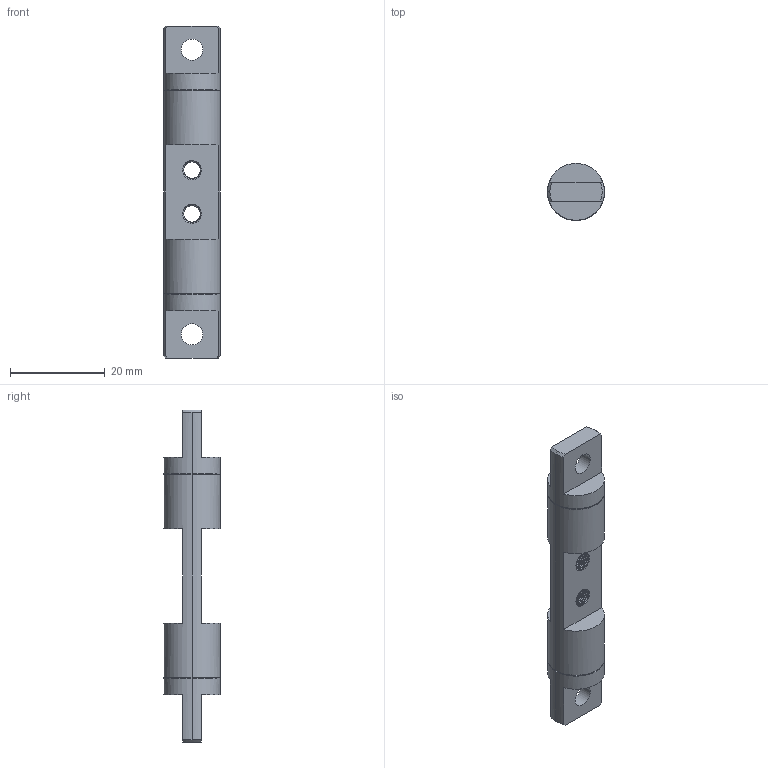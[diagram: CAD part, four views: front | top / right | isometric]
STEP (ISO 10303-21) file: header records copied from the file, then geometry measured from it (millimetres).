
FILE_DESCRIPTION (( 'STEP AP214' ), '1' );
FILE_NAME ('12X70.STEP', '2023-06-25T06:30:40', ( 'Windows 蚚誧' ), ( '' ), 'SwSTEP 2.0', 'SolidWorks 2019', '' );
FILE_SCHEMA (( 'AUTOMOTIVE_DESIGN' ));
Length unit declared in the file: millimetre
Products named in the file (1): 12X70
Bounding box: 12 x 12 x 70 mm (x, y, z)
Volume: 5015.3 mm3; surface area: 2871.3 mm2
Topology: 1 solids, 1 shells, 92 faces, 236 edges, 152 vertices
Faces by surface type: cylinder 46, plane 22, cone 18, bspline 6
Entity records: 7162 total; most frequent: CARTESIAN_POINT 5057, ORIENTED_EDGE 472, DIRECTION 384, EDGE_CURVE 236, VERTEX_POINT 152, AXIS2_PLACEMENT_3D 151, EDGE_LOOP 106, FACE_OUTER_BOUND 92
